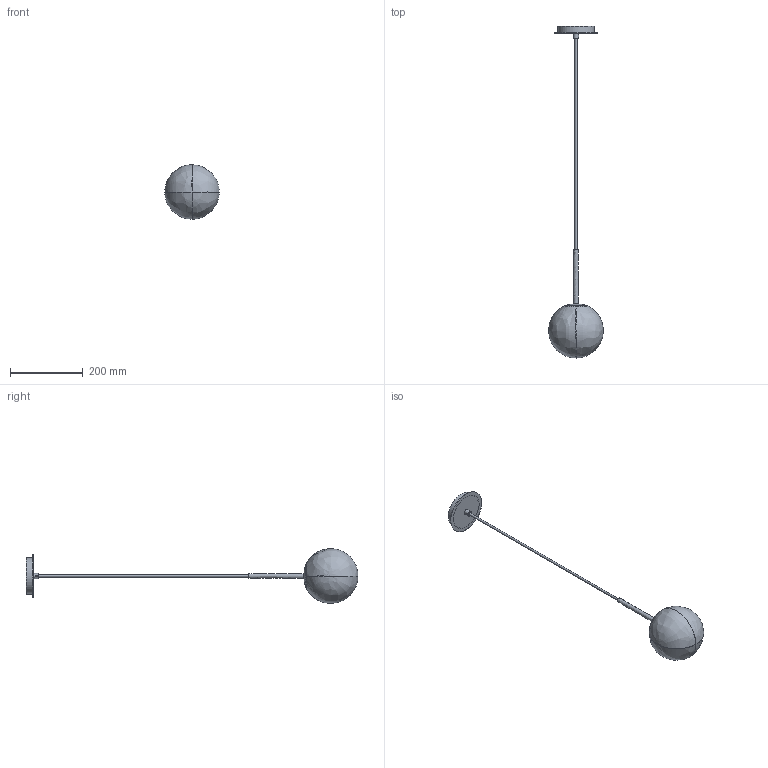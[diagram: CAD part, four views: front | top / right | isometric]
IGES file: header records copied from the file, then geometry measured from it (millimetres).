
Global section: file name: PARMA-C3946080-3D; native system: AutoCAD 2022 - Español (Spanish),; preprocessor: Autodesk Translation Framework DWG producer (atf_dwg_producer); organization: unknown; date: 20221221.092342; units: millimetre
Bounding box: 150 x 912.62 x 150 mm (x, y, z)
Volume: 1614267 mm3; surface area: 216584.8 mm2
Topology: 10 solids, 10 shells, 71 faces, 168 edges, 118 vertices
Faces by surface type: bspline 71
